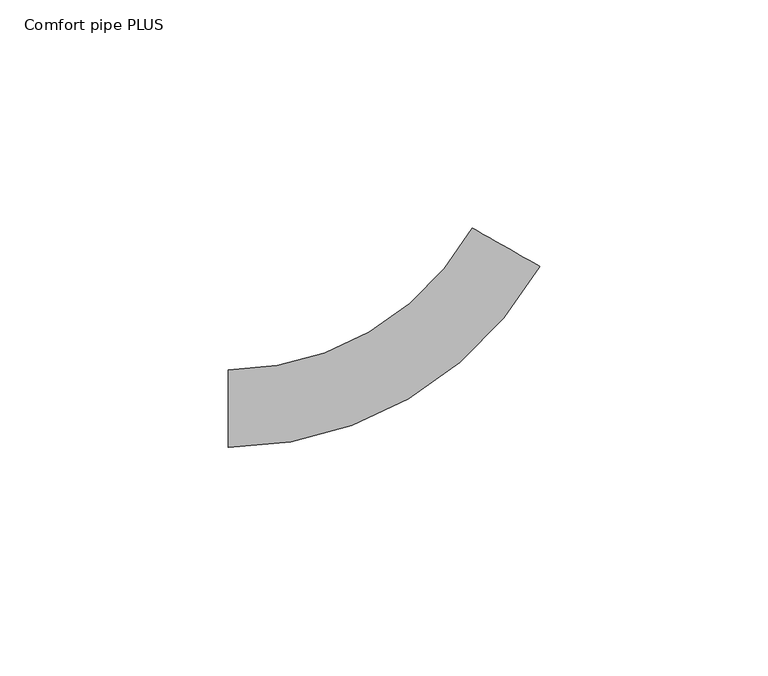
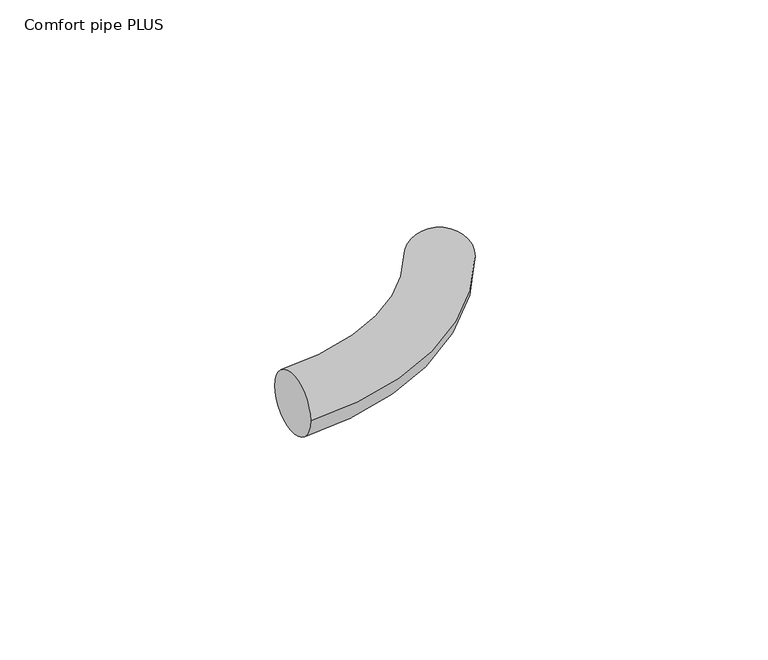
"""IFC4 building model written with IfcOpenShell, lengths in millimetres: pipe fitting geometry, 400_5-_Uponor_curved_Elbow : Comfort pipe PLUS."""

from ifc_helpers import new_model, si_unit, point, frame, origin, place, context, project, spatial, circle_curve, ellipse_curve, trimmed, source, transform, mapped, element, save
from ifc_brep_helpers import plane_surface, revolved_surface, advanced_brep


def comfort_pipe_plus_1a876405(model_context):
    return source(origin(), model_context, "Body", "AdvancedBrep", [
        advanced_brep(
        [(-40.7072088, -8.5, 0.0), (-40.7072088, 8.5, 0.0), (27.520179, 31.1763789, 0.0), (12.7448211, 39.5840421, 0.0)],
        [
            (0, 1, circle_curve(frame((-40.7072088, 0.0, 0.0), z_axis=(-1.0, 0.0, 0.0), x_axis=(0.0, 1.0, 0.0)), 8.5)),
            (1, 0, circle_curve(frame((-40.7072088, 0.0, 0.0), z_axis=(-1.0, 0.0, 0.0), x_axis=(0.0, 1.0, 0.0)), 8.5)),
            (2, 3, circle_curve(frame((20.1325, 35.3802105, 0.0), z_axis=(0.4945684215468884, 0.8691386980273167, 0.0), x_axis=(-0.8691386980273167, 0.4945684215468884, 0.0)), 8.5)),
            (3, 2, circle_curve(frame((20.1325, 35.3802105, 0.0), z_axis=(0.4945684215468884, 0.8691386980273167, 0.0), x_axis=(-0.8691386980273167, 0.4945684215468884, 0.0)), 8.5)),
            (3, 1, circle_curve(frame((-40.7072088, 70.0, 0.0), z_axis=(0.0, 0.0, -1.0), x_axis=(0.0, -1.0, 0.0)), 61.5)),
            (0, 2, circle_curve(frame((-40.7072088, 70.0, 0.0), z_axis=(0.0, 0.0, 1.0), x_axis=(0.0, -1.0, 0.0)), 78.5)),
        ],
        [
            plane_surface(frame((-40.7072088, 0.0, 0.0), z_axis=(-1.0, 0.0, 0.0), x_axis=(0.0, 0.0, 1.0))),
            plane_surface(frame((20.1325, 35.3802105, 0.0), z_axis=(0.4945684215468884, 0.8691386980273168, 0.0), x_axis=(0.0, 0.0, 1.0))),
            revolved_surface(trimmed(ellipse_curve(frame((-40.7072088, 0.0, 0.0), z_axis=(-1.0, 0.0, 0.0), x_axis=(0.0, 1.0, 0.0)), 8.5, 8.5), [point((-40.7072088, -8.5, 0.0))], [point((-40.7072088, 8.5, 0.0))], True, "CARTESIAN"), (-40.7072088, 70.0, 0.0), (0.0, 0.0, 1.0)),
            revolved_surface(trimmed(ellipse_curve(frame((-40.7072088, 0.0, 0.0), z_axis=(-1.0, 0.0, 0.0), x_axis=(0.0, 1.0, 0.0)), 8.5, 8.5), [point((-40.7072088, 8.5, 0.0))], [point((-40.7072088, -8.5, 0.0))], True, "CARTESIAN"), (-40.7072088, 70.0, 0.0), (0.0, 0.0, 1.0)),
        ],
        [
            (0, [[1, 2]]),
            (1, [[3, 4]]),
            (2, [[5, -1, 6, -4]]),
            (3, [[-6, -2, -5, -3]]),
        ],
    ),
    ])


if __name__ == "__main__":
    model = new_model("IFC4")
    model_context = context("Model", 3, world=origin())
    ifc_project = project(units=[si_unit("LENGTHUNIT", "METRE", prefix="MILLI")], contexts=[model_context])
    site = spatial("IfcSite", under=ifc_project)
    building = spatial("IfcBuilding", under=site)
    placement = place(None, origin())
    comfort_pipe_plus_shape = comfort_pipe_plus_1a876405(model_context)
    element("IfcPipeFitting", 1, ObjectType="400_5-_Uponor_curved_Elbow : Comfort pipe PLUS", at=placement, inside=building, context=model_context, shape_type="MappedRepresentation", body=[
        mapped(comfort_pipe_plus_shape, transform((0.0, 0.0, 0.0), x_axis=(1.0, 0.0, 0.0), y_axis=(0.0, 1.0, 0.0), z_axis=(0.0, 0.0, 1.0))),
    ])
    save(model, "model.ifc")
